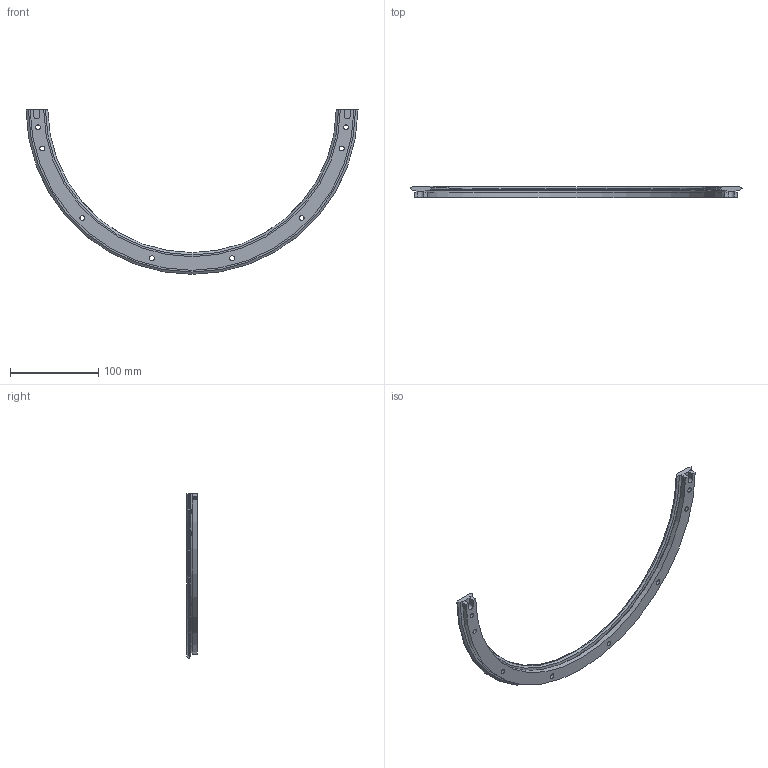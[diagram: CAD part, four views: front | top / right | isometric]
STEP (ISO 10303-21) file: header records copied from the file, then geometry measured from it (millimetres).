
FILE_DESCRIPTION( ( 'STEP AP203' ), '1' );
FILE_NAME( 'p:/temp/worker_29/temp/exporttempdir_2736_410_Urm0j/format_0/TR25 351 R180.stp', '2021-09-17T07:39:37', ( 'License CC BY-ND 4.0' ), ( 'CADENAS' ), ' ', 'PARTsolutions', ' ' );
FILE_SCHEMA( ( 'CONFIG_CONTROL_DESIGN' ) );
Length unit declared in the file: millimetre
Products named in the file (1): _TR25 351 R180
Bounding box: 375.58 x 12.25 x 186.3 mm (x, y, z)
Volume: 111164.7 mm3; surface area: 44461.8 mm2
Topology: 1 solids, 1 shells, 86 faces, 205 edges, 137 vertices
Faces by surface type: plane 54, cylinder 26, cone 4, torus 2
Full cylindrical faces by diameter (mm): 4 x2, 5.5 x8, 9 x8
Entity records: 2654 total; most frequent: CARTESIAN_POINT 614, DIRECTION 408, ORIENTED_EDGE 372, EDGE_CURVE 186, AXIS2_PLACEMENT_3D 151, VERTEX_POINT 137, EDGE_LOOP 136, LINE 106
